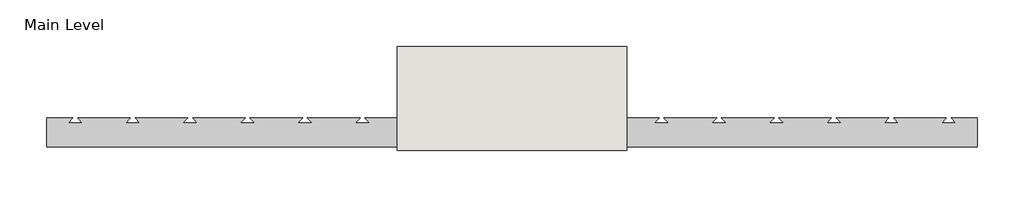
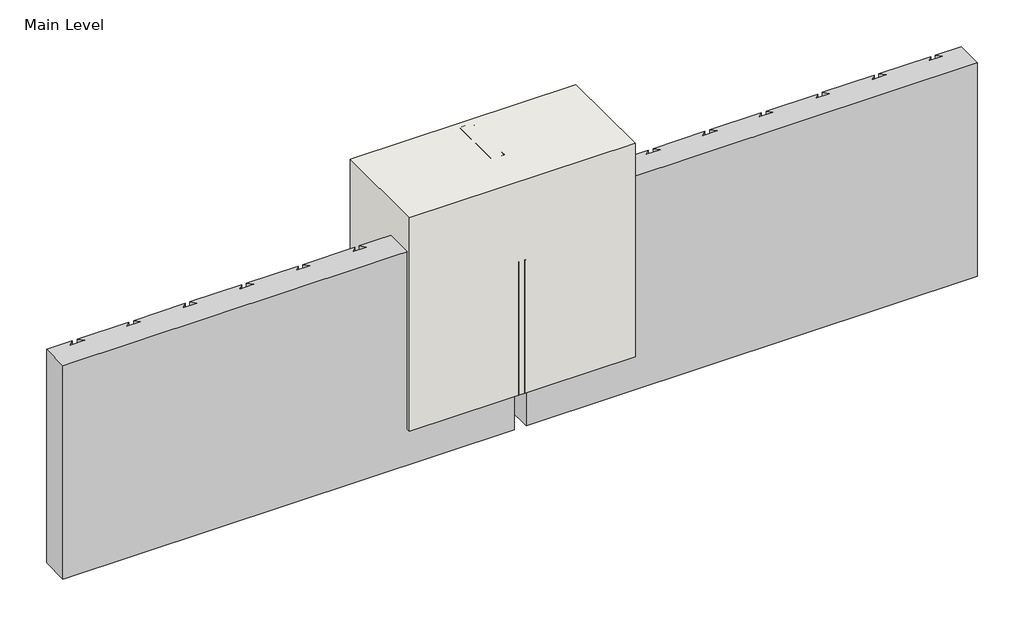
# One storey, incomplete: 16 proxies, 1 wall.
"""IFC4 building model written with IfcOpenShell, lengths in millimetres."""

from ifc_helpers import new_model, si_unit, origin, origin_with_axes, place, context, project, spatial, polyline, outline, extrude, transform, mapped, element, save
from components import generic_models_0ed8512b, generic_models_38adcc71, generic_models_03ec6e0e, proxy_59e8fef8, proxy_998bcb27, proxy_5fc139d0, finish_coat_valley_finish_coat_valley_bc799e07, proxy_d4c17246

model = new_model("IFC4")

# Units and contexts
model_context = context("Model", 3, world=origin())
ifc_project = project(units=[si_unit("LENGTHUNIT", "METRE", prefix="MILLI")], contexts=[model_context])

# Site, building, storey
site = spatial("IfcSite", under=ifc_project)
building = spatial("IfcBuilding", under=site)
storey = spatial("IfcBuildingStorey", under=building, Name="Main Level", Elevation=0.0)

# Proxies
placement = place(None, origin())
generic_models_shape = generic_models_0ed8512b(model_context)
element("IfcBuildingElementProxy", 1, Name="Durabond Generic Model Insulation Adhesive Flat : Durabond Generic Model Insulation Adhesive Flat", ObjectType="Durabond Generic Model Insulation Adhesive Flat : Durabond Generic Model Insulation Adhesive Flat", at=placement, inside=storey, context=model_context, shape_type="MappedRepresentation", body=[
    mapped(generic_models_shape, transform((26770.9539273, 627.6316297, 0.0), x_axis=(1.0, 0.0, 0.0), y_axis=(0.0, 1.0, 0.0), z_axis=(0.0, 0.0, 1.0))),
])
element("IfcBuildingElementProxy", 2, Name="Durabond Generic Model Insulation Adhesive Flat : Durabond Generic Model Insulation Adhesive Flat", ObjectType="Durabond Generic Model Insulation Adhesive Flat : Durabond Generic Model Insulation Adhesive Flat", at=placement, inside=storey, context=model_context, shape_type="MappedRepresentation", body=[
    mapped(generic_models_shape, transform((26878.9039273, 627.6316297, 0.0), x_axis=(1.0, 0.0, 0.0), y_axis=(0.0, 1.0, 0.0), z_axis=(0.0, 0.0, 1.0))),
])
element("IfcBuildingElementProxy", 3, Name="Durabond Generic Model Insulation Adhesive Flat : Durabond Generic Model Insulation Adhesive Flat", ObjectType="Durabond Generic Model Insulation Adhesive Flat : Durabond Generic Model Insulation Adhesive Flat", at=placement, inside=storey, context=model_context, shape_type="MappedRepresentation", body=[
    mapped(generic_models_shape, transform((26694.7539273, 627.6316297, 0.0), x_axis=(1.0, 0.0, 0.0), y_axis=(0.0, 1.0, 0.0), z_axis=(0.0, 0.0, 1.0))),
])
element("IfcBuildingElementProxy", 4, Name="Durabond Generic Model Insulation Adhesive Flat : Durabond Generic Model Insulation Adhesive Flat", ObjectType="Durabond Generic Model Insulation Adhesive Flat : Durabond Generic Model Insulation Adhesive Flat", at=placement, inside=storey, context=model_context, shape_type="MappedRepresentation", body=[
    mapped(generic_models_shape, transform((26618.5539273, 627.6316297, 0.0), x_axis=(1.0, 0.0, 0.0), y_axis=(0.0, 1.0, 0.0), z_axis=(0.0, 0.0, 1.0))),
])
element("IfcBuildingElementProxy", 5, Name="Durabond Generic Model Insulation Adhesive Flat : Durabond Generic Model Insulation Adhesive Flat", ObjectType="Durabond Generic Model Insulation Adhesive Flat : Durabond Generic Model Insulation Adhesive Flat", at=placement, inside=storey, context=model_context, shape_type="MappedRepresentation", body=[
    mapped(generic_models_shape, transform((26542.3539273, 627.6316297, 0.0), x_axis=(1.0, 0.0, 0.0), y_axis=(0.0, 1.0, 0.0), z_axis=(0.0, 0.0, 1.0))),
])
element("IfcBuildingElementProxy", 6, Name="Durabond Generic Model Insulation Adhesive Flat : Durabond Generic Model Insulation Adhesive Flat", ObjectType="Durabond Generic Model Insulation Adhesive Flat : Durabond Generic Model Insulation Adhesive Flat", at=placement, inside=storey, context=model_context, shape_type="MappedRepresentation", body=[
    mapped(generic_models_shape, transform((26955.1039273, 627.6316297, 0.0), x_axis=(1.0, 0.0, 0.0), y_axis=(0.0, 1.0, 0.0), z_axis=(0.0, 0.0, 1.0))),
])
element("IfcBuildingElementProxy", 7, Name="Durabond Generic Model Insulation Adhesive Flat : Durabond Generic Model Insulation Adhesive Flat", ObjectType="Durabond Generic Model Insulation Adhesive Flat : Durabond Generic Model Insulation Adhesive Flat", at=placement, inside=storey, context=model_context, shape_type="MappedRepresentation", body=[
    mapped(generic_models_shape, transform((27031.3039273, 627.6316297, 0.0), x_axis=(1.0, 0.0, 0.0), y_axis=(0.0, 1.0, 0.0), z_axis=(0.0, 0.0, 1.0))),
])
element("IfcBuildingElementProxy", 8, Name="Durabond Generic Model Insulation Adhesive Flat : Durabond Generic Model Insulation Adhesive Flat", ObjectType="Durabond Generic Model Insulation Adhesive Flat : Durabond Generic Model Insulation Adhesive Flat", at=placement, inside=storey, context=model_context, shape_type="MappedRepresentation", body=[
    mapped(generic_models_shape, transform((27107.5039273, 627.6316297, 0.0), x_axis=(1.0, 0.0, 0.0), y_axis=(0.0, 1.0, 0.0), z_axis=(0.0, 0.0, 1.0))),
])
generic_models_2_shape = generic_models_38adcc71(model_context)
element("IfcBuildingElementProxy", 9, Name="CRAi Generic Model Backer Rod and Sealant : CRAi Generic Model Backer Rod and Sealant", ObjectType="CRAi Generic Model Backer Rod and Sealant : CRAi Generic Model Backer Rod and Sealant", at=placement, inside=storey, context=model_context, shape_type="MappedRepresentation", body=[
    mapped(generic_models_2_shape, transform((26824.9289273, 570.4816297, 0.0), x_axis=(1.0, 0.0, 0.0), y_axis=(0.0, 1.0, 0.0), z_axis=(0.0, 0.0, 1.0))),
])
generic_models_3_shape = generic_models_03ec6e0e(model_context)
element("IfcBuildingElementProxy", 10, Name="CRAi Generic Model Drywall Screw : CRAi Generic Model Drywall Screw", ObjectType="CRAi Generic Model Drywall Screw : CRAi Generic Model Drywall Screw", at=placement, inside=storey, context=model_context, shape_type="MappedRepresentation", body=[
    mapped(generic_models_3_shape, transform((26834.4539273, 633.9816297, 584.2), x_axis=(1.0, 0.0, 0.0), y_axis=(0.0, 0.0, 1.0), z_axis=(0.0, -1.0, 0.0))),
])
element("IfcBuildingElementProxy", 11, Name="CRAi Generic Model Drywall Screw : CRAi Generic Model Drywall Screw", ObjectType="CRAi Generic Model Drywall Screw : CRAi Generic Model Drywall Screw", at=placement, inside=storey, context=model_context, shape_type="MappedRepresentation", body=[
    mapped(generic_models_3_shape, transform((26815.4039273, 633.9816297, 584.2), x_axis=(1.0, 0.0, 0.0), y_axis=(0.0, 0.0, 1.0), z_axis=(0.0, -1.0, 0.0))),
])
proxy_shape = proxy_59e8fef8(model_context)
element("IfcBuildingElementProxy", 12, Name="Durabond Generic Model Flexlite Insulation Board : 3\"", ObjectType="Durabond Generic Model Flexlite Insulation Board : 3\"", at=placement, inside=storey, context=model_context, shape_type="MappedRepresentation", body=[
    mapped(proxy_shape, transform((27450.4039273, 624.4566297, 203.2), x_axis=(-1.0, 0.0, 0.0), y_axis=(0.0, 0.0, -1.0), z_axis=(0.0, -1.0, 0.0))),
])
proxy_2_shape = proxy_998bcb27(model_context)
element("IfcBuildingElementProxy", 13, Name="Durabond Generic Model Flexlite Insulation Board : 3\"", ObjectType="Durabond Generic Model Flexlite Insulation Board : 3\"", at=placement, inside=storey, context=model_context, shape_type="MappedRepresentation", body=[
    mapped(proxy_2_shape, transform((26199.4539273, 624.4566297, 203.2), x_axis=(1.0, 0.0, 0.0), y_axis=(0.0, 0.0, 1.0), z_axis=(0.0, -1.0, 0.0))),
])
proxy_3_shape = proxy_5fc139d0(model_context)
element("IfcBuildingElementProxy", 14, Name="Durabond Generic Model Barrier Seam Tape Straight : 4\" Barrier Seam Tape", ObjectType="Durabond Generic Model Barrier Seam Tape Straight : 4\" Barrier Seam Tape", at=placement, inside=storey, context=model_context, shape_type="MappedRepresentation", body=[
    mapped(proxy_3_shape, transform((26875.7289273, 633.9816297, 0.0), x_axis=(1.0, 0.0, 0.0), y_axis=(0.0, 1.0, 0.0), z_axis=(0.0, 0.0, 1.0))),
])
finish_coat_valley_finish_coat_valley_shape = finish_coat_valley_finish_coat_valley_bc799e07(model_context)
element("IfcBuildingElementProxy", 15, Name="Finish Coat Valley : Finish Coat Valley", ObjectType="Finish Coat Valley : Finish Coat Valley", at=placement, inside=storey, context=model_context, shape_type="MappedRepresentation", body=[
    mapped(finish_coat_valley_finish_coat_valley_shape, transform((0.0, 0.0, 0.0), x_axis=(1.0, 0.0, 0.0), y_axis=(0.0, 1.0, 0.0), z_axis=(0.0, 0.0, 1.0))),
])
proxy_4_shape = proxy_d4c17246(model_context)
element("IfcBuildingElementProxy", 16, Name="CRAi Generic Model Metal Stud : Metal Framing Stud - 1\" x 3.5\"", ObjectType="CRAi Generic Model Metal Stud : Metal Framing Stud - 1\" x 3.5\"", at=placement, inside=storey, context=model_context, shape_type="MappedRepresentation", body=[
    mapped(proxy_4_shape, transform((26824.9289273, 726.0566297, 0.0), x_axis=(1.0, 0.0, 0.0), y_axis=(0.0, 1.0, 0.0), z_axis=(0.0, 0.0, 1.0))),
])

# Wall
element("IfcWall", 17, ObjectType="189mm (7.5”) EIFS Field Applied on Mtl. Stud Layer - 50mm Grooved Insulation Board Metal Stud Wall (AirStop)", at=placement, inside=storey, context=model_context, shape_type="SweptSolid", body=[
    extrude(outline(polyline([(27129.7289273, 538.7316297), (26520.1289273, 538.7316297), (26520.1289273, 814.9566297), (27129.7289273, 814.9566297), (27129.7289273, 538.7316297)])), origin_with_axes(), (0.0, 0.0, 1.0), 609.6),
])

save(model, "model.ifc")
